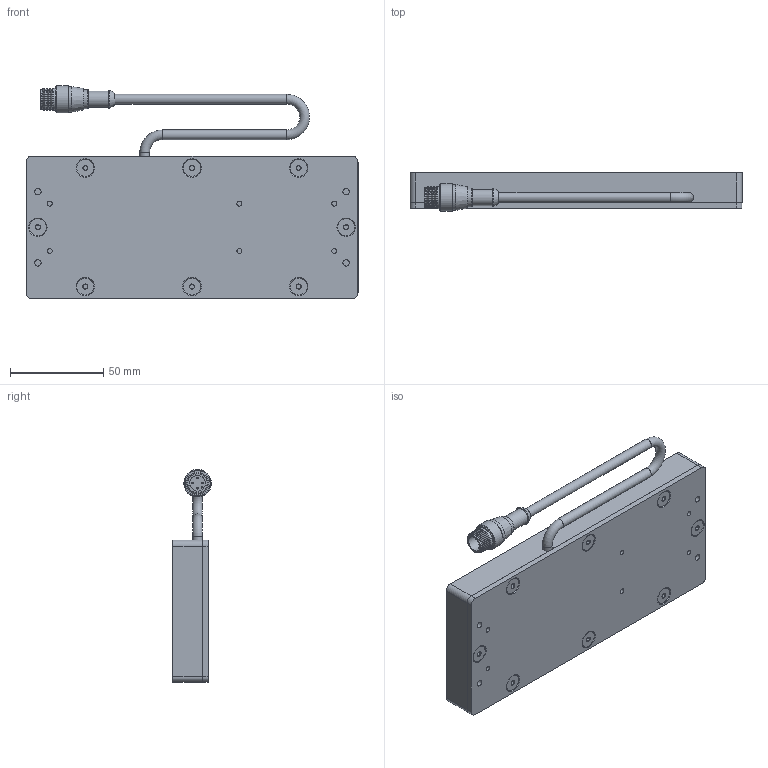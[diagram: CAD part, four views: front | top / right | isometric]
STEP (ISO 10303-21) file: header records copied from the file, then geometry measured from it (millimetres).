
FILE_DESCRIPTION (( 'STEP AP214' ), '1' );
FILE_NAME ('SBL26-XXX-WDC.STEP', '2026-04-17T16:36:03', ( '' ), ( '' ), 'SwSTEP 2.0', 'SolidWorks 2025', '' );
FILE_SCHEMA (( 'AUTOMOTIVE_DESIGN' ));
Length unit declared in the file: inch
Products named in the file (9): M12 Connector 4,5 and 8 pin; 8-32 x 0.375 FHCS (92210A192)_92210A192; MC Pigtail 24; SBL26-XXX-WDC; SC Pigtail Complete 18_4pin; Hex Standoff X.X x 8-32_0.375; WD-SBLYYXX_2x6; Housing SBL26; BackPlate BLYYXX_0206
Assembly tree (22 placements, depth 3):
  SBL26-XXX-WDC
    Housing SBL26
    BackPlate BLYYXX_0206
    SC Pigtail Complete 18_4pin
      MC Pigtail 24
      M12 Connector 4,5 and 8 pin
    WD-SBLYYXX_2x6
    Hex Standoff X.X x 8-32_0.375  x8
    8-32 x 0.375 FHCS (92210A192)_92210A192  x8
Bounding box: 177.8 x 20.61 x 113.99 mm (x, y, z)
Volume: 160299.9 mm3; surface area: 94521.9 mm2
Topology: 21 solids, 21 shells, 496 faces, 1110 edges, 674 vertices
Faces by surface type: plane 195, cone 139, cylinder 113, bspline 24, torus 21, sphere 4
Full cylindrical faces by diameter (mm): 0.762 x4, 2.705 x6, 3.454 x12, 4.496 x16, 5.207 x3, 6.604 x4, 6.858 x8, 8.382 x1, 8.636 x1, 9.119 x8, 10.16 x1, 10.541 x1, 11.938 x1, 13.716 x2, 14.732 x1
Entity records: 9432 total; most frequent: CARTESIAN_POINT 3017, DIRECTION 1108, ORIENTED_EDGE 820, AXIS2_PLACEMENT_3D 479, EDGE_LOOP 414, EDGE_CURVE 410, VERTEX_POINT 316, FACE_OUTER_BOUND 296
